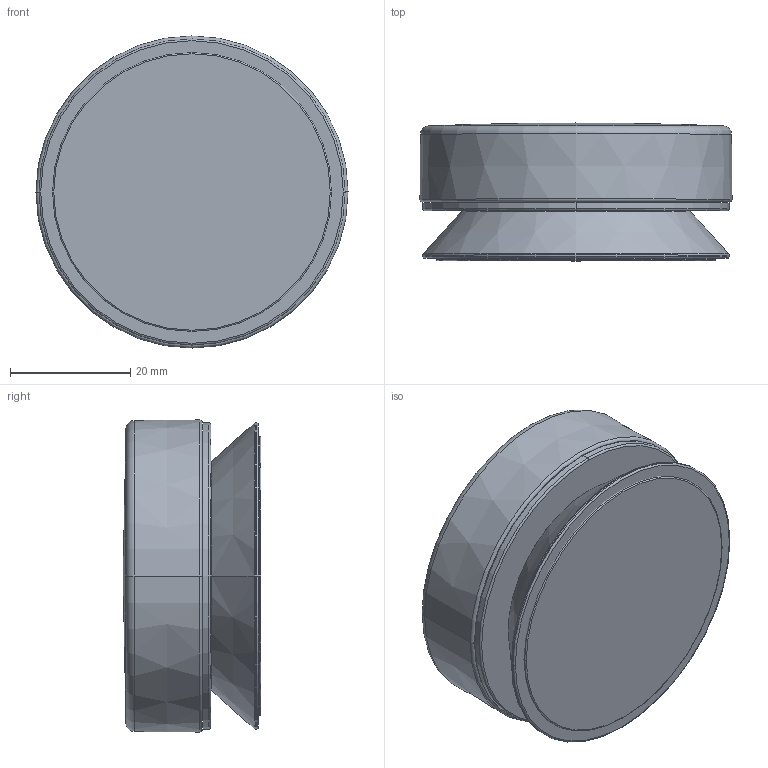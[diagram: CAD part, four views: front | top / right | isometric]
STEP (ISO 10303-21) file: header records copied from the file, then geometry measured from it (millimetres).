
FILE_DESCRIPTION (( 'STEP AP203' ), '1' );
FILE_NAME ('272100(2013)+272101(2013).STEP', '2022-03-07T12:30:00', ( '' ), ( '' ), 'SwSTEP 2.0', 'SolidWorks 2016', '' );
FILE_SCHEMA (( 'CONFIG_CONTROL_DESIGN' ));
Length unit declared in the file: millimetre
Products named in the file (1): 272100(2013)+272101(2013)
Bounding box: 51.99 x 22.95 x 51.99 mm (x, y, z)
Volume: 53117.4 mm3; surface area: 19430 mm2
Topology: 4 solids, 4 shells, 61 faces, 132 edges, 81 vertices
Faces by surface type: torus 22, bspline 12, plane 9, cone 8, cylinder 8, sphere 2
Entity records: 2585 total; most frequent: CARTESIAN_POINT 1239, DIRECTION 268, ORIENTED_EDGE 264, EDGE_CURVE 132, AXIS2_PLACEMENT_3D 126, VERTEX_POINT 81, CIRCLE 76, EDGE_LOOP 63
